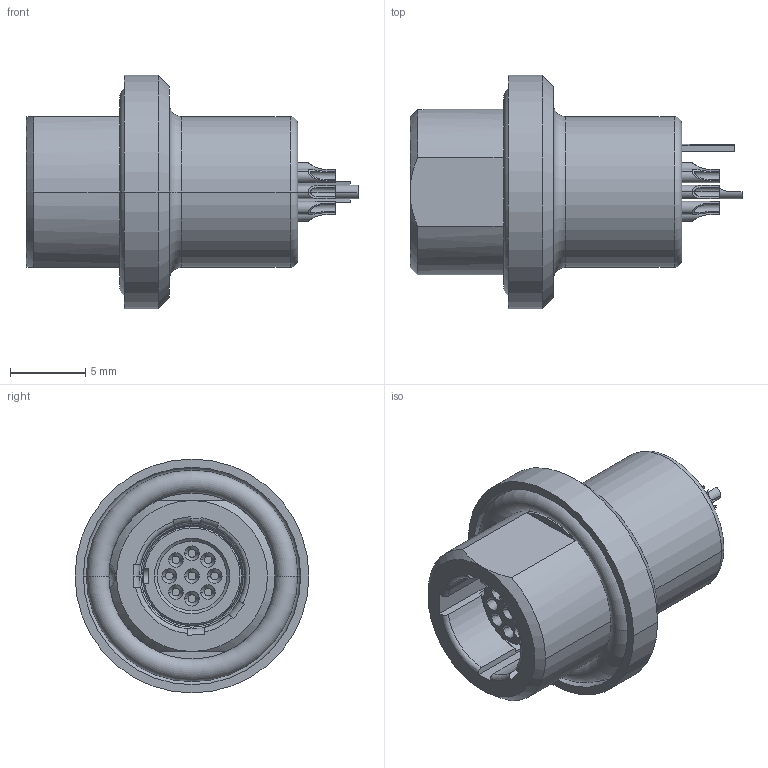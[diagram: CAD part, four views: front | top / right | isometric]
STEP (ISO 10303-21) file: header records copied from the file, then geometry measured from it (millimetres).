
FILE_DESCRIPTION((''),'2;1');
FILE_NAME('G80Y_R-P09WCD0-000L_WITHOUT_HEX','2020-10-13T11:29:32',('EUnterhaslberger'),(''),'CREO PARAMETRIC BY PTC INC, 2018300','CREO PARAMETRIC BY PTC INC, 2018300','');
FILE_SCHEMA(('AP242_MANAGED_MODEL_BASED_3D_ENGINEERING_MIM_LF { 1 0 10303 442 1 1 4 }'));
Length unit declared in the file: millimetre
Products named in the file (1): G80Y_R-P09WCD0-000L_WITHOUT_HEX
Bounding box: 22 x 15.5 x 15.5 mm (x, y, z)
Volume: 1490.5 mm3; surface area: 1857.1 mm2
Topology: 2 solids, 3 shells, 244 faces, 632 edges, 411 vertices
Faces by surface type: cylinder 85, plane 80, cone 36, torus 32, sphere 11
Entity records: 9927 total; most frequent: CARTESIAN_POINT 2372, ORIENTED_EDGE 1258, DIRECTION 1257, EDGE_CURVE 629, AXIS2_PLACEMENT_3D 495, VERTEX_POINT 411, EDGE_LOOP 268, VECTOR 267
